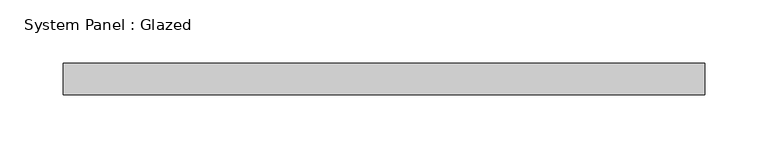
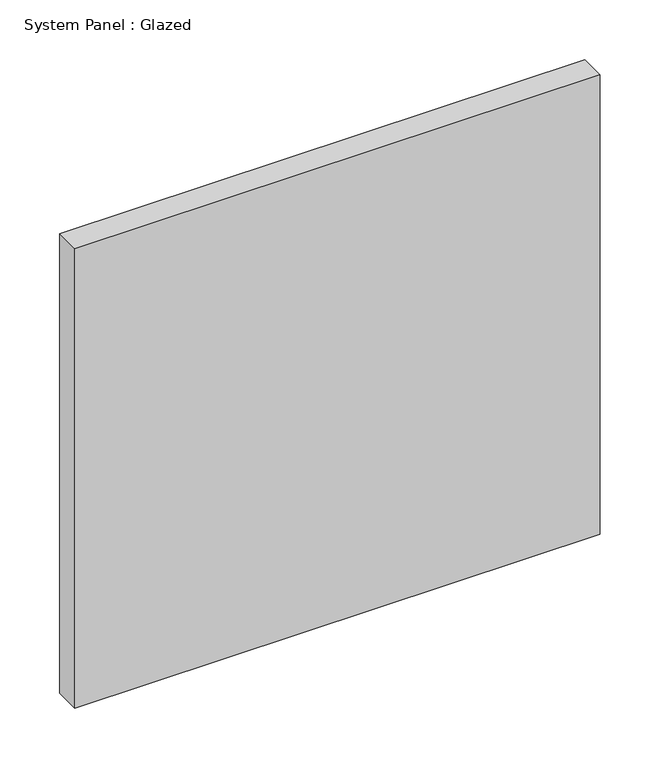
"""IFC4 building model written with IfcOpenShell, lengths in millimetres: plate geometry, System Panel : Glazed."""

from ifc_helpers import new_model, si_unit, origin, origin_with_axes, place, context, project, spatial, polyline, outline, extrude, source, transform, mapped, element, save


def system_panel_glazed_fee34500(model_context):
    return source(origin(), model_context, "Body", "SweptSolid", [
        extrude(outline(polyline([(254.2200031, -12.5), (-254.2200031, -12.5), (-254.2200031, 12.5), (254.2200031, 12.5), (254.2200031, -12.5)])), origin_with_axes(), (0.0, 0.0, 1.0), 470.0),
    ])


if __name__ == "__main__":
    model = new_model("IFC4")
    model_context = context("Model", 3, world=origin())
    ifc_project = project(units=[si_unit("LENGTHUNIT", "METRE", prefix="MILLI")], contexts=[model_context])
    site = spatial("IfcSite", under=ifc_project)
    building = spatial("IfcBuilding", under=site)
    placement = place(None, origin())
    system_panel_glazed_shape = system_panel_glazed_fee34500(model_context)
    element("IfcPlate", 1, ObjectType="System Panel : Glazed", at=placement, inside=building, context=model_context, shape_type="MappedRepresentation", body=[
        mapped(system_panel_glazed_shape, transform((0.0, 0.0, 0.0), x_axis=(1.0, 0.0, 0.0), y_axis=(0.0, 1.0, 0.0), z_axis=(0.0, 0.0, 1.0))),
    ])
    save(model, "model.ifc")
